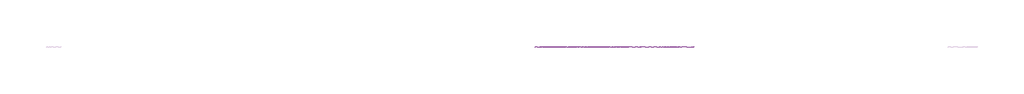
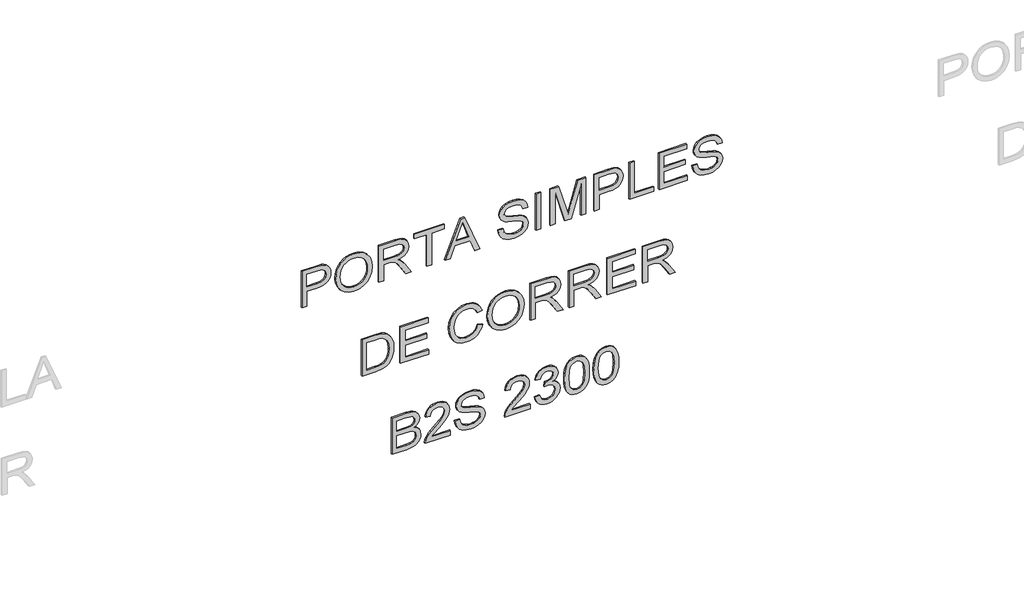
# One storey, part 11 of 13: 1 proxy.
"""IFC4 building model written with IfcOpenShell, lengths in millimetres."""

import ifcopenshell
import ifcopenshell.guid

model = None  # the IFC model being written
_history = None  # IfcOwnerHistory: only IFC2X3 demands one
_inside = {}  # id of a spatial element -> (the spatial element, [elements in it])
_under = {}  # id of a project, library or spatial element -> (it, [spatial elements below it])
_declared = {}  # id of a project -> (the project, [libraries it declares])
_typed = {}  # id of a type object -> (the type object, [elements of that type])
_made_of = {}  # id of a material, layer set ... -> (it, [elements and type objects made of it])


def new_model(schema):
    """Start an empty IFC model of exactly this schema.

    Asked for "IFC4X3", IfcOpenShell would pick the latest addendum, in which some entities
    have other attributes; the version numbers below select the first issue.
    IFC2X3 requires an IfcOwnerHistory on every rooted entity: one is made here for all.
    """
    global model, _history
    if schema == "IFC4X3":
        model = ifcopenshell.file(schema_version=(4, 3, 0, 0))
    else:
        model = ifcopenshell.file(schema=schema)
    _inside.clear()
    _under.clear()
    _declared.clear()
    _typed.clear()
    _made_of.clear()
    _history = None
    if model.schema == "IFC2X3":
        org = make("IfcOrganization", Name="unknown")
        user = make(
            "IfcPersonAndOrganization",
            ThePerson=make("IfcPerson", FamilyName="unknown"),
            TheOrganization=org,
        )
        app = make(
            "IfcApplication",
            ApplicationDeveloper=org,
            Version="unknown",
            ApplicationFullName="unknown",
            ApplicationIdentifier="unknown",
        )
        _history = make(
            "IfcOwnerHistory",
            OwningUser=user,
            OwningApplication=app,
            ChangeAction="ADDED",
            CreationDate=0,
        )
    return model


def make(cls, **values):
    """One entity of the class cls with the attributes given. An attribute that is None is left unset."""
    return model.create_entity(
        cls, **{name: value for name, value in values.items() if value is not None}
    )


def rooted(cls, **values):
    """An entity with a GlobalId (a new one), such as an element, a storey or a relation."""
    return make(cls, GlobalId=ifcopenshell.guid.new(), OwnerHistory=_history, **values)


def si_unit(unit_type, name, prefix=None):
    """IfcSIUnit, for example si_unit("LENGTHUNIT", "METRE", prefix="MILLI")."""
    return make("IfcSIUnit", UnitType=unit_type, Prefix=prefix, Name=name)


def assignment(units):
    """IfcUnitAssignment: the units of a project."""
    return None if units is None else make("IfcUnitAssignment", Units=units)


def point(xyz):
    """IfcCartesianPoint."""
    return None if xyz is None else make("IfcCartesianPoint", Coordinates=xyz)


def direction(xyz):
    """IfcDirection."""
    return None if xyz is None else make("IfcDirection", DirectionRatios=xyz)


def frame(location, z_axis=None, x_axis=None):
    """IfcAxis2Placement3D, a coordinate frame: its origin and axes. An axis left out is left unset."""
    return make(
        "IfcAxis2Placement3D",
        Location=point(location),
        Axis=direction(z_axis),
        RefDirection=direction(x_axis),
    )


def origin():
    """The frame at (0, 0, 0) with its axes left unset."""
    return frame((0.0, 0.0, 0.0))


def place(relative_to, where):
    """IfcLocalPlacement: puts the frame where relative to a parent placement (None: the world)."""
    return make(
        "IfcLocalPlacement", PlacementRelTo=relative_to, RelativePlacement=where
    )


def context(
    kind, dimensions, precision=None, world=None, true_north=None, identifier=None
):
    """IfcGeometricRepresentationContext, for example the 3D "Model" context."""
    return make(
        "IfcGeometricRepresentationContext",
        ContextIdentifier=identifier,
        ContextType=kind,
        CoordinateSpaceDimension=dimensions,
        Precision=precision,
        WorldCoordinateSystem=world,
        TrueNorth=true_north,
    )


def project(units=None, contexts=None):
    """IfcProject with its units and contexts."""
    return rooted(
        "IfcProject",
        Name="project",
        RepresentationContexts=contexts,
        UnitsInContext=assignment(units),
    )


def spatial(cls, under=None, at=None, **own):
    """A site, building, storey or space (cls), placed at a placement, below another one or the project."""
    s = rooted(cls, ObjectPlacement=at, **own)
    if under is not None:
        _under.setdefault(under.id(), (under, []))[1].append(s)
    return s


def polyline(points):
    """IfcPolyline through the points."""
    return make("IfcPolyline", Points=[point(p) for p in points])


def outline(outer, holes=None, kind="AREA"):
    """IfcArbitraryClosedProfileDef: a profile drawn as a closed curve; with holes, ...WithVoids."""
    if holes is None:
        return make("IfcArbitraryClosedProfileDef", ProfileType=kind, OuterCurve=outer)
    return make(
        "IfcArbitraryProfileDefWithVoids",
        ProfileType=kind,
        OuterCurve=outer,
        InnerCurves=holes,
    )


def extrude(swept, where, along, depth):
    """IfcExtrudedAreaSolid: the profile swept, set in the frame where, extruded along a direction by depth."""
    return make(
        "IfcExtrudedAreaSolid",
        SweptArea=swept,
        Position=where,
        ExtrudedDirection=direction(along),
        Depth=depth,
    )


def shape(context_of_items, identifier, shape_type, items):
    """IfcShapeRepresentation: the items that make up one representation, for example the "Body"."""
    return make(
        "IfcShapeRepresentation",
        ContextOfItems=context_of_items,
        RepresentationIdentifier=identifier,
        RepresentationType=shape_type,
        Items=items,
    )


def made_of(thing, what):
    """Note that an element or type object is made of a material, layer set ...; save() writes the relation."""
    if what is not None:
        _made_of.setdefault(what.id(), (what, []))[1].append(thing)
    return thing


def element(
    cls,
    number,
    at=None,
    inside=None,
    cuts=None,
    type_object=None,
    material=None,
    context=None,
    identifier="Body",
    shape_type=None,
    held_by="IfcProductDefinitionShape",
    body=None,
    shapes=None,
    **own,
):
    """One element of the class cls, such as IfcWall. Its Tag is "e" and its number.

    at: its placement. inside: the storey or other place that contains it. cuts: it is an
    opening in that element (IfcRelVoidsElement). A single representation is given by context,
    identifier, shape_type and body (its items); several are given by shapes. held_by: the class
    of the entity that holds the representations. save() writes the other relations.
    """
    e = rooted(cls, Tag="e%d" % number, ObjectPlacement=at, **own)
    if body is not None:
        shapes = [shape(context, identifier, shape_type, body)]
    if shapes is not None:
        e.Representation = make(held_by, Representations=shapes)
    if inside is not None:
        _inside.setdefault(inside.id(), (inside, []))[1].append(e)
    if cuts is not None:
        rooted(
            "IfcRelVoidsElement", RelatingBuildingElement=cuts, RelatedOpeningElement=e
        )
    if type_object is not None:
        _typed.setdefault(type_object.id(), (type_object, []))[1].append(e)
    return made_of(e, material)


def aggregate(whole, parts):
    """IfcRelAggregates: a whole, such as a stair, and the parts it consists of."""
    return rooted("IfcRelAggregates", RelatingObject=whole, RelatedObjects=parts)


def save(model, path):
    """Write the relations noted so far, then the file.

    IfcRelAggregates (storeys below a building ...), IfcRelContainedInSpatialStructure (elements
    in a storey), IfcRelDefinesByType, IfcRelAssociatesMaterial and IfcRelDeclares: one each for
    every whole, place, type object, material and project.
    """
    for whole, parts in _under.values():
        aggregate(whole, parts)
    for where, things in _inside.values():
        rooted(
            "IfcRelContainedInSpatialStructure",
            RelatedElements=things,
            RelatingStructure=where,
        )
    for kind, things in _typed.values():
        rooted("IfcRelDefinesByType", RelatedObjects=things, RelatingType=kind)
    for what, things in _made_of.values():
        rooted("IfcRelAssociatesMaterial", RelatedObjects=things, RelatingMaterial=what)
    for by, libraries in _declared.values():
        rooted("IfcRelDeclares", RelatingContext=by, RelatedDefinitions=libraries)
    model.write(path)


model = new_model("IFC4")

# Units and contexts
model_context = context("Model", 3, world=origin())
ifc_project = project(units=[si_unit("LENGTHUNIT", "METRE", prefix="MILLI")], contexts=[model_context])

# Site, building, storey
site = spatial("IfcSite", under=ifc_project)
building = spatial("IfcBuilding", under=site)
storey = spatial("IfcBuildingStorey", under=building, Name="02 - Marelli - Planta Baixa - Portas", Elevation=-12000.0)

# Proxy
placement = place(None, origin())
element("IfcBuildingElementProxy", 1, Name="300mm Arial", ObjectType="300mm Arial", at=placement, inside=storey, context=model_context, shape_type="SweptSolid", body=[
    extrude(outline(polyline([(-5683.1381416, 57229.2612813), (-5683.1381416, 57266.9323976), (-5560.7070137, 57266.9323976), (-5560.7070137, 57343.525429), (-5559.0423476, 57372.7237631), (-5554.0483495, 57397.0430622), (-5545.7250194, 57416.4833264), (-5534.0723572, 57431.0445557), (-5520.0146665, 57441.6510534), (-5504.4762507, 57449.2271233), (-5487.4571099, 57453.7727652), (-5468.9572441, 57455.2879791), (-5447.5005267, 57453.043899), (-5427.8648252, 57446.3116585), (-5411.2181649, 57435.8914009), (-5398.7285712, 57422.5832698), (-5390.0005708, 57406.0561711), (-5384.6386908, 57385.9790112), (-5381.7692112, 57340.950255), (-5381.7692112, 57229.2612813), (-5683.1381416, 57229.2612813)]), holes=[polyline([(-5523.0358973, 57266.9323976), (-5419.4403275, 57266.9323976), (-5419.4403275, 57344.8498042), (-5422.0155015, 57382.5209205), (-5428.3430718, 57396.7487567), (-5439.085226, 57407.9415664), (-5453.3590475, 57415.1980387), (-5470.2816192, 57417.6168628), (-5492.556874, 57413.5149786), (-5509.2035343, 57401.2093258), (-5519.5778066, 57379.1364061), (-5523.0358973, 57345.732721), (-5523.0358973, 57266.9323976)])]), frame((0.0, 8778.3159498, 0.0), z_axis=(0.0, 1.0, 0.0), x_axis=(0.0, 0.0, 1.0)), (0.0, 0.0, 1.0), 10.0),
    extrude(outline(polyline([(-5536.426802, 57492.9590954), (-5574.971638, 57497.2633148), (-5611.4379408, 57510.1759728), (-5643.1309747, 57531.4395521), (-5667.3560041, 57560.7965354), (-5682.7242744, 57596.4443007), (-5687.8470312, 57636.5802264), (-5683.211718, 57674.3892984), (-5669.3057786, 57709.531226), (-5646.3867303, 57739.4952145), (-5614.7120905, 57761.7704693), (-5576.2500279, 57775.5936353), (-5532.9687112, 57780.2013573), (-5490.2576116, 57775.8235615), (-5452.3289779, 57762.6901743), (-5420.7095204, 57741.2058658), (-5396.9259494, 57711.7753062), (-5382.0267286, 57676.3298759), (-5377.0603217, 57636.8009556), (-5379.7044735, 57606.5104718), (-5387.636929, 57579.1354528), (-5400.8576882, 57554.6758987), (-5419.3667511, 57533.1318093), (-5442.5479153, 57515.556247), (-5469.7849785, 57503.0022739), (-5501.0779408, 57495.4698901), (-5536.426802, 57492.9590954)]), holes=[polyline([(-5536.794684, 57530.6302117), (-5506.2581791, 57532.5937819), (-5480.4259653, 57538.4844923), (-5459.2980424, 57548.3023431), (-5442.8744106, 57562.0473341), (-5430.5618601, 57578.5146519), (-5421.7671811, 57596.499483), (-5416.4903738, 57616.0018273), (-5414.731438, 57637.0216848), (-5418.3826668, 57666.1855299), (-5429.3363532, 57692.3143486), (-5446.9303096, 57713.9734011), (-5470.5023484, 57729.7279475), (-5499.3259028, 57739.3296676), (-5532.6744056, 57742.530241), (-5559.212493, 57740.6609406), (-5582.5408101, 57735.0530394), (-5602.6593567, 57725.7065375), (-5619.5681329, 57712.6214348), (-5632.9590375, 57696.6392613), (-5642.5239694, 57678.6015473), (-5648.2629285, 57658.5082925), (-5650.1759149, 57636.3594972), (-5648.2813226, 57614.5831823), (-5642.5975458, 57594.7244524), (-5633.1245844, 57576.7833073), (-5619.8624385, 57560.7597472), (-5603.3031502, 57547.5780754), (-5583.9387616, 57538.1625956), (-5561.7692729, 57532.5133077), (-5536.794684, 57530.6302117)])]), frame((0.0, 8778.3159498, 0.0), z_axis=(0.0, 1.0, 0.0), x_axis=(0.0, 0.0, 1.0)), (0.0, 0.0, 1.0), 10.0),
    extrude(outline(polyline([(-5683.1381416, 57831.9991422), (-5683.1381416, 57869.6702585), (-5551.2892346, 57869.6702585), (-5551.2892346, 57915.1404731), (-5552.6136098, 57936.9926636), (-5559.7873087, 57954.9085168), (-5579.3218426, 57974.8109327), (-5620.6717789, 58003.1378464), (-5683.1381416, 58042.354067), (-5683.1381416, 58086.1320245), (-5601.4683387, 58035.8793439), (-5562.6935764, 58005.3451383), (-5546.580345, 57983.9344062), (-5536.5923489, 58021.0445025), (-5528.5771199, 58035.4263892), (-5518.547737, 58047.0261684), (-5493.9364315, 58062.3392564), (-5464.2483545, 58067.4436191), (-5440.3820101, 58064.3626074), (-5418.6677753, 58055.1195723), (-5401.1565923, 58040.7169922), (-5389.8994033, 58022.1573455), (-5383.8017592, 57996.7642908), (-5381.7692112, 57961.8614865), (-5381.7692112, 57831.9991422), (-5683.1381416, 57831.9991422)]), holes=[polyline([(-5513.6181183, 57869.6702585), (-5419.4403275, 57869.6702585), (-5419.4403275, 57963.4801673), (-5422.6960832, 57993.2878059), (-5432.4633501, 58013.8432124), (-5447.2706004, 58025.7901802), (-5465.6463061, 58029.7725028), (-5478.9544373, 58027.6847725), (-5491.2141048, 58021.4215815), (-5501.3492537, 58011.1392797), (-5508.2838293, 57996.994217), (-5512.284546, 57978.2046441), (-5513.6181183, 57953.9888118), (-5513.6181183, 57869.6702585)])]), frame((0.0, 8778.3159498, 0.0), z_axis=(0.0, 1.0, 0.0), x_axis=(0.0, 0.0, 1.0)), (0.0, 0.0, 1.0), 10.0),
    extrude(outline(polyline([(-5683.1381416, 58208.7103053), (-5683.1381416, 58246.3814216), (-5419.4403275, 58246.3814216), (-5419.4403275, 58345.2681019), (-5381.7692112, 58345.2681019), (-5381.7692112, 58109.823625), (-5419.4403275, 58109.823625), (-5419.4403275, 58208.7103053), (-5683.1381416, 58208.7103053)])), frame((0.0, 8778.3159498, 0.0), z_axis=(0.0, 1.0, 0.0), x_axis=(0.0, 0.0, 1.0)), (0.0, 0.0, 1.0), 10.0),
    extrude(outline(polyline([(-5683.1381416, 58352.5521654), (-5683.1381416, 58392.3569973), (-5588.9603509, 58426.790752), (-5588.9603509, 58550.9141372), (-5683.1381416, 58585.4214683), (-5683.1381416, 58625.2263002), (-5381.7692112, 58504.9288878), (-5381.7692112, 58472.8495778), (-5683.1381416, 58352.5521654)]), holes=[polyline([(-5551.2892346, 58440.623115), (-5470.7230776, 58470.127251), (-5419.4403275, 58488.8892328), (-5477.1978007, 58510.0056593), (-5551.2892346, 58537.1553506), (-5551.2892346, 58440.623115)])]), frame((0.0, 8778.3159498, 0.0), z_axis=(0.0, 1.0, 0.0), x_axis=(0.0, 0.0, 1.0)), (0.0, 0.0, 1.0), 10.0),
    extrude(outline(polyline([(-5579.5425718, 58769.0681603), (-5609.9664128, 58773.5379266), (-5637.0793159, 58785.3285445), (-5659.3361766, 58803.6950531), (-5675.1918906, 58827.8924913), (-5684.683246, 58858.2703471), (-5687.8470312, 58895.1781083), (-5684.9131723, 58925.2432643), (-5676.1115955, 58952.1630293), (-5662.0217151, 58974.5486487), (-5643.2229452, 58991.011368), (-5621.3799517, 59001.1373199), (-5598.1574008, 59004.5126372), (-5575.4406876, 59001.5787783), (-5555.5566657, 58992.7772016), (-5538.6892762, 58977.7952073), (-5525.0224601, 58956.3200959), (-5516.2116863, 58931.1937556), (-5506.1133256, 58889.6598783), (-5495.4815359, 58849.4135881), (-5485.0704754, 58828.1500087), (-5473.4270103, 58819.155294), (-5458.9508538, 58816.1570557), (-5441.9730997, 58820.3876986), (-5427.6808842, 58833.0796275), (-5417.9687995, 58855.0237885), (-5414.731438, 58887.011128), (-5418.0055877, 58918.2627035), (-5427.828037, 58940.7954757), (-5444.051633, 58955.2164499), (-5466.5292229, 58962.1326314), (-5466.5292229, 58999.8037477), (-5441.5684295, 58995.5547106), (-5419.3667511, 58984.8677387), (-5401.0646218, 58967.9819551), (-5387.8024759, 58945.1364832), (-5379.7458602, 58917.3246044), (-5377.0603217, 58885.5396), (-5379.6262986, 58856.2010109), (-5387.3242293, 58829.6951131), (-5399.97937, 58807.6129964), (-5417.4169765, 58791.5457502), (-5437.9907771, 58781.7508921), (-5460.0544998, 58778.4859394), (-5479.7913688, 58781.1254927), (-5497.5048869, 58789.0441526), (-5512.8639602, 58802.3338897), (-5525.5374949, 58821.0866744), (-5534.596589, 58844.1252844), (-5544.1155357, 58880.1317347), (-5558.4997217, 58934.9829401), (-5566.308017, 58951.0593833), (-5575.6062345, 58960.587527), (-5586.5047386, 58965.2780224), (-5599.1138939, 58966.8415209), (-5612.0541431, 58964.7537906), (-5624.387387, 58958.4905996), (-5635.1295413, 58947.9599775), (-5643.2965216, 58933.0699538), (-5648.4560666, 58914.6942481), (-5650.1759149, 58893.7065803), (-5647.9042436, 58869.867827), (-5641.0892296, 58848.5306713), (-5630.5861986, 58831.0746706), (-5617.2504763, 58818.8793825), (-5600.4474662, 58811.0618901), (-5579.5425718, 58806.7392766), (-5579.5425718, 58769.0681603)])), frame((0.0, 8778.3159498, 0.0), z_axis=(0.0, 1.0, 0.0), x_axis=(0.0, 0.0, 1.0)), (0.0, 0.0, 1.0), 10.0),
    extrude(outline(polyline([(59103.3993175, 8778.3159498), (59065.7282012, 8778.3159498), (59065.7282012, 8788.3159498), (59103.3993175, 8788.3159498), (59103.3993175, 8778.3159498)])), frame((0.0, 0.0, -5683.1381416), z_axis=(0.0, 0.0, 1.0), x_axis=(1.0, 0.0, 0.0)), (0.0, 0.0, 1.0), 301.3689304),
    extrude(outline(polyline([(-5683.1381416, 59178.7415501), (-5683.1381416, 59216.4126664), (-5419.4403275, 59216.4126664), (-5683.1381416, 59292.1227811), (-5683.1381416, 59343.184802), (-5419.4403275, 59418.8949166), (-5683.1381416, 59418.8949166), (-5683.1381416, 59456.5660329), (-5381.7692112, 59456.5660329), (-5381.7692112, 59391.7452253), (-5590.5054553, 59331.1182725), (-5638.5508438, 59317.6537915), (-5594.1842752, 59305.2193801), (-5381.7692112, 59243.5623577), (-5381.7692112, 59178.7415501), (-5683.1381416, 59178.7415501)])), frame((0.0, 8778.3159498, 0.0), z_axis=(0.0, 1.0, 0.0), x_axis=(0.0, 0.0, 1.0)), (0.0, 0.0, 1.0), 10.0),
    extrude(outline(polyline([(-5683.1381416, 59522.4904864), (-5683.1381416, 59560.1616027), (-5560.7070137, 59560.1616027), (-5560.7070137, 59636.7546341), (-5559.0423476, 59665.9529682), (-5554.0483495, 59690.2722674), (-5545.7250194, 59709.7125316), (-5534.0723572, 59724.2737608), (-5520.0146665, 59734.8802586), (-5504.4762507, 59742.4563284), (-5487.4571099, 59747.0019703), (-5468.9572441, 59748.5171843), (-5447.5005267, 59746.2731041), (-5427.8648252, 59739.5408636), (-5411.2181649, 59729.1206061), (-5398.7285712, 59715.8124749), (-5390.0005708, 59699.2853763), (-5384.6386908, 59679.2082164), (-5381.7692112, 59634.1794602), (-5381.7692112, 59522.4904864), (-5683.1381416, 59522.4904864)]), holes=[polyline([(-5523.0358973, 59560.1616027), (-5419.4403275, 59560.1616027), (-5419.4403275, 59638.0790093), (-5422.0155015, 59675.7501256), (-5428.3430718, 59689.9779618), (-5439.085226, 59701.1707715), (-5453.3590475, 59708.4272438), (-5470.2816192, 59710.846068), (-5492.556874, 59706.7441837), (-5509.2035343, 59694.438531), (-5519.5778066, 59672.3656113), (-5523.0358973, 59638.9619261), (-5523.0358973, 59560.1616027)])]), frame((0.0, 8778.3159498, 0.0), z_axis=(0.0, 1.0, 0.0), x_axis=(0.0, 0.0, 1.0)), (0.0, 0.0, 1.0), 10.0),
    extrude(outline(polyline([(-5683.1381416, 59800.3149692), (-5683.1381416, 59988.6705507), (-5645.4670253, 59988.6705507), (-5645.4670253, 59837.9860855), (-5381.7692112, 59837.9860855), (-5381.7692112, 59800.3149692), (-5683.1381416, 59800.3149692)])), frame((0.0, 8778.3159498, 0.0), z_axis=(0.0, 1.0, 0.0), x_axis=(0.0, 0.0, 1.0)), (0.0, 0.0, 1.0), 10.0),
    extrude(outline(polyline([(-5683.1381416, 60031.0505566), (-5683.1381416, 60252.3683649), (-5645.4670253, 60252.3683649), (-5645.4670253, 60068.7216729), (-5546.580345, 60068.7216729), (-5546.580345, 60238.2416962), (-5508.9092287, 60238.2416962), (-5508.9092287, 60068.7216729), (-5419.4403275, 60068.7216729), (-5419.4403275, 60247.6594753), (-5381.7692112, 60247.6594753), (-5381.7692112, 60031.0505566), (-5683.1381416, 60031.0505566)])), frame((0.0, 8778.3159498, 0.0), z_axis=(0.0, 1.0, 0.0), x_axis=(0.0, 0.0, 1.0)), (0.0, 0.0, 1.0), 10.0),
    extrude(outline(polyline([(-5579.5425718, 60294.7483707), (-5609.9664128, 60299.2181369), (-5637.0793159, 60311.0087549), (-5659.3361766, 60329.3752635), (-5675.1918906, 60353.5727017), (-5684.683246, 60383.9505575), (-5687.8470312, 60420.8583187), (-5684.9131723, 60450.9234747), (-5676.1115955, 60477.8432397), (-5662.0217151, 60500.2288591), (-5643.2229452, 60516.6915784), (-5621.3799517, 60526.8175303), (-5598.1574008, 60530.1928476), (-5575.4406876, 60527.2589887), (-5555.5566657, 60518.457412), (-5538.6892762, 60503.4754177), (-5525.0224601, 60482.0003063), (-5516.2116863, 60456.873966), (-5506.1133256, 60415.3400887), (-5495.4815359, 60375.0937985), (-5485.0704754, 60353.8302191), (-5473.4270103, 60344.8355044), (-5458.9508538, 60341.8372661), (-5441.9730997, 60346.067909), (-5427.6808842, 60358.7598379), (-5417.9687995, 60380.7039989), (-5414.731438, 60412.6913384), (-5418.0055877, 60443.9429139), (-5427.828037, 60466.4756861), (-5444.051633, 60480.8966603), (-5466.5292229, 60487.8128418), (-5466.5292229, 60525.4839581), (-5441.5684295, 60521.234921), (-5419.3667511, 60510.5479491), (-5401.0646218, 60493.6621655), (-5387.8024759, 60470.8166936), (-5379.7458602, 60443.0048148), (-5377.0603217, 60411.2198104), (-5379.6262986, 60381.8812213), (-5387.3242293, 60355.3753235), (-5399.97937, 60333.2932068), (-5417.4169765, 60317.2259606), (-5437.9907771, 60307.4311025), (-5460.0544998, 60304.1661498), (-5479.7913688, 60306.8057031), (-5497.5048869, 60314.724363), (-5512.8639602, 60328.0141001), (-5525.5374949, 60346.7668848), (-5534.596589, 60369.8054948), (-5544.1155357, 60405.8119451), (-5558.4997217, 60460.6631505), (-5566.308017, 60476.7395937), (-5575.6062345, 60486.2677374), (-5586.5047386, 60490.9582328), (-5599.1138939, 60492.5217313), (-5612.0541431, 60490.434001), (-5624.387387, 60484.17081), (-5635.1295413, 60473.6401879), (-5643.2965216, 60458.7501642), (-5648.4560666, 60440.3744585), (-5650.1759149, 60419.3867907), (-5647.9042436, 60395.5480374), (-5641.0892296, 60374.2108817), (-5630.5861986, 60356.754881), (-5617.2504763, 60344.5595929), (-5600.4474662, 60336.7421005), (-5579.5425718, 60332.419487), (-5579.5425718, 60294.7483707)])), frame((0.0, 8778.3159498, 0.0), z_axis=(0.0, 1.0, 0.0), x_axis=(0.0, 0.0, 1.0)), (0.0, 0.0, 1.0), 10.0),
    extrude(outline(polyline([(-6414.9870487, 57700.1502351), (-6414.9870487, 57809.1168821), (-6409.8367008, 57857.5669409), (-6403.4815393, 57877.1106719), (-6394.7167508, 57893.5825882), (-6382.8985417, 57907.929986), (-6367.3831185, 57921.1001614), (-6347.729023, 57932.5412915), (-6323.4947965, 57941.7015532), (-6295.0299271, 57947.7164238), (-6262.6839027, 57949.7213807), (-6224.6081162, 57946.7599306), (-6191.0204901, 57937.8755804), (-6162.4728472, 57923.0315419), (-6139.5170107, 57902.1910269), (-6126.3284412, 57881.9207289), (-6117.9591258, 57857.8980347), (-6113.6181183, 57804.113687), (-6113.6181183, 57700.1502351), (-6414.9870487, 57700.1502351)]), holes=[polyline([(-6377.3159324, 57737.8213514), (-6151.2892346, 57737.8213514), (-6151.2892346, 57803.4514994), (-6152.7975508, 57835.1997156), (-6157.3224993, 57856.8679651), (-6169.9040635, 57878.1591355), (-6190.7261845, 57895.9738212), (-6221.0396609, 57908.0311536), (-6262.0952915, 57912.0502643), (-6293.0801526, 57909.9993222), (-6319.0802126, 57903.8464959), (-6340.187442, 57894.0148495), (-6356.4938115, 57880.9274476), (-6365.3045853, 57868.7505535), (-6371.8712789, 57852.9684159), (-6375.954769, 57832.0543245), (-6377.3159324, 57804.481569), (-6377.3159324, 57737.8213514)])]), frame((0.0, 8778.3159498, 0.0), z_axis=(0.0, 1.0, 0.0), x_axis=(0.0, 0.0, 1.0)), (0.0, 0.0, 1.0), 10.0),
    extrude(outline(polyline([(-6414.9870487, 58001.5191656), (-6414.9870487, 58222.8369739), (-6377.3159324, 58222.8369739), (-6377.3159324, 58039.1902819), (-6278.4292521, 58039.1902819), (-6278.4292521, 58208.7103053), (-6240.7581358, 58208.7103053), (-6240.7581358, 58039.1902819), (-6151.2892346, 58039.1902819), (-6151.2892346, 58218.1280843), (-6113.6181183, 58218.1280843), (-6113.6181183, 58001.5191656), (-6414.9870487, 58001.5191656)])), frame((0.0, 8778.3159498, 0.0), z_axis=(0.0, 1.0, 0.0), x_axis=(0.0, 0.0, 1.0)), (0.0, 0.0, 1.0), 10.0),
    extrude(outline(polyline([(-6307.8598117, 58608.965916), (-6340.1230627, 58596.7798249), (-6363.3364166, 58576.9969706), (-6377.3527206, 58550.7945755), (-6382.024822, 58519.349862), (-6378.5943223, 58492.3749147), (-6368.3028235, 58467.3681361), (-6351.0767491, 58446.5092269), (-6326.8425227, 58431.9778881), (-6296.7497755, 58423.4522229), (-6261.9481387, 58420.6103345), (-6233.5292546, 58423.0107645), (-6205.9564991, 58430.2120546), (-6181.5659228, 58443.3362447), (-6162.6935764, 58463.5053751), (-6150.6086529, 58490.0848493), (-6146.580345, 58522.4400707), (-6150.2131797, 58550.509467), (-6161.1116838, 58573.3549389), (-6179.9564391, 58591.1972156), (-6207.428027, 58604.2570265), (-6198.4517064, 58641.9281428), (-6160.6334373, 58625.2906795), (-6145.3111522, 58613.4885653), (-6132.3801, 58599.3641959), (-6122.1115938, 58583.1842859), (-6114.7769466, 58565.2155497), (-6108.9092287, 58523.9115987), (-6113.4433743, 58486.0565414), (-6127.0458111, 58451.5124221), (-6149.3854453, 58422.3853651), (-6180.131183, 58400.7814949), (-6218.0782108, 58387.3997874), (-6262.0217151, 58382.9392182), (-6303.6843511, 58386.8847526), (-6342.5878721, 58398.7213558), (-6375.6788575, 58418.1087369), (-6399.9038869, 58444.7066052), (-6414.7479254, 58479.4070744), (-6419.6959383, 58523.1022583), (-6418.0611626, 58545.5246659), (-6413.1568358, 58566.1444518), (-6404.9829577, 58584.9616158), (-6393.5395284, 58601.9761581), (-6378.9828977, 58616.8523863), (-6361.4694155, 58629.254608), (-6340.9990817, 58639.1828234), (-6317.5718964, 58646.6370323), (-6307.8598117, 58608.965916)])), frame((0.0, 8778.3159498, 0.0), z_axis=(0.0, 1.0, 0.0), x_axis=(0.0, 0.0, 1.0)), (0.0, 0.0, 1.0), 10.0),
    extrude(outline(polyline([(-6268.275709, 58684.3081486), (-6306.8205451, 58688.612368), (-6343.2868479, 58701.525026), (-6374.9798817, 58722.7886053), (-6399.2049111, 58752.1455885), (-6414.5731815, 58787.7933539), (-6419.6959383, 58827.9292795), (-6415.0606251, 58865.7383516), (-6401.1546857, 58900.8802792), (-6378.2356374, 58930.8442677), (-6346.5609976, 58953.1195225), (-6308.098935, 58966.9426885), (-6264.8176183, 58971.5504105), (-6222.1065186, 58967.1726147), (-6184.1778849, 58954.0392275), (-6152.5584275, 58932.554919), (-6128.7748565, 58903.1243594), (-6113.8756357, 58867.6789291), (-6108.9092287, 58828.1500087), (-6111.5533806, 58797.859525), (-6119.4858361, 58770.484506), (-6132.7065953, 58746.0249518), (-6151.2156582, 58724.4808625), (-6174.3968224, 58706.9053002), (-6201.6338856, 58694.3513271), (-6232.9268478, 58686.8189432), (-6268.275709, 58684.3081486)]), holes=[polyline([(-6268.643591, 58721.9792649), (-6238.1070862, 58723.9428351), (-6212.2748723, 58729.8335455), (-6191.1469495, 58739.6513963), (-6174.7233177, 58753.3963873), (-6162.4107671, 58769.8637051), (-6153.6160882, 58787.8485362), (-6148.3392808, 58807.3508804), (-6146.580345, 58828.3707379), (-6150.2315738, 58857.5345831), (-6161.1852602, 58883.6634018), (-6178.7792167, 58905.3224543), (-6202.3512555, 58921.0770007), (-6231.1748098, 58930.6787208), (-6264.5233127, 58933.8792942), (-6291.0614001, 58932.0099938), (-6314.3897171, 58926.4020926), (-6334.5082637, 58917.0555907), (-6351.41704, 58903.9704879), (-6364.8079446, 58887.9883145), (-6374.3728765, 58869.9506004), (-6380.1118356, 58849.8573457), (-6382.024822, 58827.7085503), (-6380.1302297, 58805.9322355), (-6374.4464529, 58786.0735055), (-6364.9734915, 58768.1323605), (-6351.7113455, 58752.1088003), (-6335.1520572, 58738.9271286), (-6315.7876687, 58729.5116488), (-6293.61818, 58723.8623609), (-6268.643591, 58721.9792649)])]), frame((0.0, 8778.3159498, 0.0), z_axis=(0.0, 1.0, 0.0), x_axis=(0.0, 0.0, 1.0)), (0.0, 0.0, 1.0), 10.0),
    extrude(outline(polyline([(-6414.9870487, 59023.3481954), (-6414.9870487, 59061.0193117), (-6283.1381416, 59061.0193117), (-6283.1381416, 59106.4895263), (-6284.4625168, 59128.3417168), (-6291.6362157, 59146.25757), (-6311.1707497, 59166.1599859), (-6352.5206859, 59194.4868995), (-6414.9870487, 59233.7031202), (-6414.9870487, 59277.4810776), (-6333.3172458, 59227.2283971), (-6294.5424835, 59196.6941915), (-6278.4292521, 59175.2834594), (-6268.4412559, 59212.3935556), (-6260.426027, 59226.7754424), (-6250.3966441, 59238.3752216), (-6225.7853386, 59253.6883096), (-6196.0972616, 59258.7926723), (-6172.2309172, 59255.7116606), (-6150.5166824, 59246.4686255), (-6133.0054994, 59232.0660453), (-6121.7483104, 59213.5063987), (-6115.6506663, 59188.113344), (-6113.6181183, 59153.2105397), (-6113.6181183, 59023.3481954), (-6414.9870487, 59023.3481954)]), holes=[polyline([(-6245.4670253, 59061.0193117), (-6151.2892346, 59061.0193117), (-6151.2892346, 59154.8292205), (-6154.5449902, 59184.6368591), (-6164.3122572, 59205.1922656), (-6179.1195075, 59217.1392334), (-6197.4952132, 59221.121556), (-6210.8033443, 59219.0338257), (-6223.0630118, 59212.7706347), (-6233.1981608, 59202.4883329), (-6240.1327364, 59188.3432702), (-6244.1334531, 59169.5536973), (-6245.4670253, 59145.337865), (-6245.4670253, 59061.0193117)])]), frame((0.0, 8778.3159498, 0.0), z_axis=(0.0, 1.0, 0.0), x_axis=(0.0, 0.0, 1.0)), (0.0, 0.0, 1.0), 10.0),
    extrude(outline(polyline([(-6414.9870487, 59324.7171258), (-6414.9870487, 59362.3882421), (-6283.1381416, 59362.3882421), (-6283.1381416, 59407.8584567), (-6284.4625168, 59429.7106472), (-6291.6362157, 59447.6265004), (-6311.1707497, 59467.5289164), (-6352.5206859, 59495.85583), (-6414.9870487, 59535.0720507), (-6414.9870487, 59578.8500081), (-6333.3172458, 59528.5973276), (-6294.5424835, 59498.063122), (-6278.4292521, 59476.6523898), (-6268.4412559, 59513.7624861), (-6260.426027, 59528.1443728), (-6250.3966441, 59539.744152), (-6225.7853386, 59555.0572401), (-6196.0972616, 59560.1616027), (-6172.2309172, 59557.080591), (-6150.5166824, 59547.8375559), (-6133.0054994, 59533.4349758), (-6121.7483104, 59514.8753291), (-6115.6506663, 59489.4822744), (-6113.6181183, 59454.5794701), (-6113.6181183, 59324.7171258), (-6414.9870487, 59324.7171258)]), holes=[polyline([(-6245.4670253, 59362.3882421), (-6151.2892346, 59362.3882421), (-6151.2892346, 59456.1981509), (-6154.5449902, 59486.0057896), (-6164.3122572, 59506.561196), (-6179.1195075, 59518.5081638), (-6197.4952132, 59522.4904864), (-6210.8033443, 59520.4027561), (-6223.0630118, 59514.1395651), (-6233.1981608, 59503.8572634), (-6240.1327364, 59489.7122007), (-6244.1334531, 59470.9226278), (-6245.4670253, 59446.7067954), (-6245.4670253, 59362.3882421)])]), frame((0.0, 8778.3159498, 0.0), z_axis=(0.0, 1.0, 0.0), x_axis=(0.0, 0.0, 1.0)), (0.0, 0.0, 1.0), 10.0),
    extrude(outline(polyline([(-6414.9870487, 59626.0860563), (-6414.9870487, 59847.4038646), (-6377.3159324, 59847.4038646), (-6377.3159324, 59663.7571726), (-6278.4292521, 59663.7571726), (-6278.4292521, 59833.277196), (-6240.7581358, 59833.277196), (-6240.7581358, 59663.7571726), (-6151.2892346, 59663.7571726), (-6151.2892346, 59842.694975), (-6113.6181183, 59842.694975), (-6113.6181183, 59626.0860563), (-6414.9870487, 59626.0860563)])), frame((0.0, 8778.3159498, 0.0), z_axis=(0.0, 1.0, 0.0), x_axis=(0.0, 0.0, 1.0)), (0.0, 0.0, 1.0), 10.0),
    extrude(outline(polyline([(-6414.9870487, 59903.910539), (-6414.9870487, 59941.5816553), (-6283.1381416, 59941.5816553), (-6283.1381416, 59987.0518699), (-6284.4625168, 60008.9040605), (-6291.6362157, 60026.8199136), (-6311.1707497, 60046.7223296), (-6352.5206859, 60075.0492432), (-6414.9870487, 60114.2654639), (-6414.9870487, 60158.0434213), (-6333.3172458, 60107.7907408), (-6294.5424835, 60077.2565352), (-6278.4292521, 60055.845803), (-6268.4412559, 60092.9558993), (-6260.426027, 60107.3377861), (-6250.3966441, 60118.9375652), (-6225.7853386, 60134.2506533), (-6196.0972616, 60139.3550159), (-6172.2309172, 60136.2740042), (-6150.5166824, 60127.0309691), (-6133.0054994, 60112.628389), (-6121.7483104, 60094.0687423), (-6115.6506663, 60068.6756876), (-6113.6181183, 60033.7728833), (-6113.6181183, 59903.910539), (-6414.9870487, 59903.910539)]), holes=[polyline([(-6245.4670253, 59941.5816553), (-6151.2892346, 59941.5816553), (-6151.2892346, 60035.3915641), (-6154.5449902, 60065.1992028), (-6164.3122572, 60085.7546092), (-6179.1195075, 60097.701577), (-6197.4952132, 60101.6838996), (-6210.8033443, 60099.5961693), (-6223.0630118, 60093.3329783), (-6233.1981608, 60083.0506766), (-6240.1327364, 60068.9056139), (-6244.1334531, 60050.116041), (-6245.4670253, 60025.9002086), (-6245.4670253, 59941.5816553)])]), frame((0.0, 8778.3159498, 0.0), z_axis=(0.0, 1.0, 0.0), x_axis=(0.0, 0.0, 1.0)), (0.0, 0.0, 1.0), 10.0),
    extrude(outline(polyline([(-7146.8359558, 57935.594712), (-7146.8359558, 58049.7117069), (-7141.6488197, 58098.0146129), (-7135.2292788, 58116.0500277), (-7126.3449287, 58130.7928987), (-7114.0760641, 58142.831837), (-7097.5029802, 58152.7554538), (-7078.0144315, 58159.4049209), (-7056.9991726, 58161.6214099), (-7031.7808618, 58158.3748513), (-7010.1310064, 58148.6351754), (-6993.1716464, 58132.8622349), (-6982.024822, 58111.5158821), (-6970.2801893, 58129.38575), (-6955.3533773, 58142.0868759), (-6938.2928498, 58149.6744421), (-6920.1470704, 58152.2036308), (-6900.4285954, 58149.1961955), (-6881.5930373, 58140.1738896), (-6865.5809734, 58125.8448858), (-6854.3329814, 58106.9173572), (-6847.6835144, 58082.2232783), (-6845.4670253, 58050.5946237), (-6845.4670253, 57935.594712), (-7146.8359558, 57935.594712)]), holes=[polyline([(-6967.8981533, 57973.2658283), (-6883.1381416, 57973.2658283), (-6883.1381416, 58036.8358371), (-6887.074479, 58085.2491077), (-6892.6754824, 58097.7387014), (-6901.6058178, 58106.9541454), (-6913.0469479, 58112.6379222), (-6926.1803351, 58114.5325145), (-6939.7091955, 58112.4999665), (-6950.7180642, 58106.4023224), (-6959.0781825, 58096.2947646), (-6964.6607918, 58082.2324753), (-6967.8981533, 58042.0597614), (-6967.8981533, 57973.2658283)]), polyline([(-7109.1648395, 57973.2658283), (-7005.5692696, 57973.2658283), (-7005.5692696, 58046.8422274), (-7006.8292655, 58073.6700219), (-7010.609253, 58093.3792998), (-7017.4978433, 58107.2944362), (-7028.0836477, 58116.7398065), (-7041.6217052, 58122.1476718), (-7057.3670546, 58123.9502936), (-7070.9235061, 58122.4143862), (-7082.7509122, 58117.8066642), (-7099.489543, 58102.1348913), (-7107.6933115, 58078.480079), (-7109.1648395, 58050.5210473), (-7109.1648395, 57973.2658283)])]), frame((0.0, 8778.3159498, 0.0), z_axis=(0.0, 1.0, 0.0), x_axis=(0.0, 0.0, 1.0)), (0.0, 0.0, 1.0), 10.0),
    extrude(outline(polyline([(-7109.1648395, 58392.3569973), (-7109.1648395, 58244.3948588), (-7089.9981875, 58261.391007), (-7053.761811, 58304.727506), (-7024.7451186, 58337.4230183), (-7002.1479671, 58358.6957947), (-6983.2204384, 58372.0407141), (-6965.2126148, 58380.9526554), (-6947.5082938, 58385.9742446), (-6929.491273, 58387.6481077), (-6912.338775, 58386.0961055), (-6896.6394109, 58381.440099), (-6882.3931806, 58373.6800882), (-6869.6000842, 58362.816073), (-6859.041871, 58349.2895119), (-6851.5002901, 58333.5418633), (-6846.9753415, 58315.5731271), (-6845.4670253, 58295.3833033), (-6850.8932848, 58257.5006549), (-6857.6761091, 58241.7668018), (-6867.1720631, 58228.1712628), (-6879.2523881, 58216.9715553), (-6893.7883254, 58208.4251967), (-6930.227037, 58199.2925262), (-6934.9359266, 58236.9636425), (-6913.2860712, 58241.0379356), (-6896.8969283, 58252.8193565), (-6886.5778383, 58271.0755005), (-6883.1381416, 58294.5739629), (-6886.6606118, 58316.9503853), (-6897.2280221, 58334.6363122), (-6912.9089921, 58346.1418216), (-6931.7721414, 58349.9769914), (-6952.8149915, 58345.9118954), (-6974.4464529, 58333.7166072), (-7001.0995034, 58309.3260309), (-7037.2071212, 58268.6750705), (-7060.2641253, 58241.1758913), (-7080.8747141, 58221.5125987), (-7100.5655978, 58207.919359), (-7120.8634869, 58198.6303386), (-7146.8359558, 58194.5836366), (-7146.8359558, 58392.3569973), (-7109.1648395, 58392.3569973)])), frame((0.0, 8778.3159498, 0.0), z_axis=(0.0, 1.0, 0.0), x_axis=(0.0, 0.0, 1.0)), (0.0, 0.0, 1.0), 10.0),
    extrude(outline(polyline([(-7043.2403859, 58430.0281136), (-7073.6642269, 58434.4978798), (-7100.77713, 58446.2884977), (-7123.0339907, 58464.6550064), (-7138.8897047, 58488.8524446), (-7148.3810602, 58519.2303003), (-7151.5448453, 58556.1380615), (-7148.6109864, 58586.2032176), (-7139.8094097, 58613.1229826), (-7125.7195293, 58635.508602), (-7106.9207593, 58651.9713212), (-7085.0777658, 58662.0972732), (-7061.8552149, 58665.4725905), (-7039.1385017, 58662.5387316), (-7019.2544799, 58653.7371548), (-7002.3870904, 58638.7551606), (-6988.7202743, 58617.2800491), (-6979.9095005, 58592.1537088), (-6969.8111397, 58550.6198316), (-6959.1793501, 58510.3735413), (-6948.7682896, 58489.109962), (-6937.1248244, 58480.1152472), (-6922.6486679, 58477.1170089), (-6905.6709139, 58481.3476519), (-6891.3786983, 58494.0395807), (-6881.6666137, 58515.9837417), (-6878.4292521, 58547.9710812), (-6881.7034019, 58579.2226567), (-6891.5258511, 58601.7554289), (-6907.7494471, 58616.1764031), (-6930.227037, 58623.0925846), (-6930.227037, 58660.7637009), (-6905.2662437, 58656.5146639), (-6883.0645652, 58645.8276919), (-6864.762436, 58628.9419083), (-6851.5002901, 58606.0964364), (-6843.4436744, 58578.2845576), (-6840.7581358, 58546.4995532), (-6843.3241127, 58517.1609641), (-6851.0220435, 58490.6550664), (-6863.6771841, 58468.5729496), (-6881.1147907, 58452.5057035), (-6901.6885913, 58442.7108453), (-6923.7523139, 58439.4458926), (-6943.489183, 58442.0854459), (-6961.202701, 58450.0041059), (-6976.5617743, 58463.293843), (-6989.2353091, 58482.0466277), (-6998.2944032, 58505.0852376), (-7007.8133498, 58541.0916879), (-7022.1975358, 58595.9428934), (-7030.0058312, 58612.0193366), (-7039.3040486, 58621.5474802), (-7050.2025527, 58626.2379757), (-7062.8117081, 58627.8014742), (-7075.7519573, 58625.7137438), (-7088.0852012, 58619.4505529), (-7098.8273554, 58608.9199308), (-7106.9943357, 58594.029907), (-7112.1538807, 58575.6542013), (-7113.873729, 58554.6665335), (-7111.6020577, 58530.8277802), (-7104.7870437, 58509.4906245), (-7094.2840128, 58492.0346238), (-7080.9482905, 58479.8393357), (-7064.1452803, 58472.0218433), (-7043.2403859, 58467.6992299), (-7043.2403859, 58430.0281136)])), frame((0.0, 8778.3159498, 0.0), z_axis=(0.0, 1.0, 0.0), x_axis=(0.0, 0.0, 1.0)), (0.0, 0.0, 1.0), 10.0),
    extrude(outline(polyline([(-7109.1648395, 59018.6393058), (-7109.1648395, 58870.6771674), (-7089.9981875, 58887.6733156), (-7053.761811, 58931.0098146), (-7024.7451186, 58963.7053269), (-7002.1479671, 58984.9781033), (-6983.2204384, 58998.3230227), (-6965.2126148, 59007.234964), (-6947.5082938, 59012.2565532), (-6929.491273, 59013.9304163), (-6912.338775, 59012.3784141), (-6896.6394109, 59007.7224076), (-6882.3931806, 58999.9623968), (-6869.6000842, 58989.0983816), (-6859.041871, 58975.5718205), (-6851.5002901, 58959.8241719), (-6846.9753415, 58941.8554357), (-6845.4670253, 58921.6656119), (-6850.8932848, 58883.7829635), (-6857.6761091, 58868.0491104), (-6867.1720631, 58854.4535714), (-6879.2523881, 58843.2538639), (-6893.7883254, 58834.7075053), (-6930.227037, 58825.5748348), (-6934.9359266, 58863.2459511), (-6913.2860712, 58867.3202442), (-6896.8969283, 58879.1016651), (-6886.5778383, 58897.3578091), (-6883.1381416, 58920.8562715), (-6886.6606118, 58943.2326939), (-6897.2280221, 58960.9186208), (-6912.9089921, 58972.4241302), (-6931.7721414, 58976.2593), (-6952.8149915, 58972.1942039), (-6974.4464529, 58959.9989158), (-7001.0995034, 58935.6083395), (-7037.2071212, 58894.9573791), (-7060.2641253, 58867.4581999), (-7080.8747141, 58847.7949073), (-7100.5655978, 58834.2016676), (-7120.8634869, 58824.9126472), (-7146.8359558, 58820.8659452), (-7146.8359558, 59018.6393058), (-7109.1648395, 59018.6393058)])), frame((0.0, 8778.3159498, 0.0), z_axis=(0.0, 1.0, 0.0), x_axis=(0.0, 0.0, 1.0)), (0.0, 0.0, 1.0), 10.0),
    extrude(outline(polyline([(-7066.7848336, 59056.3104221), (-7084.6776942, 59059.5615793), (-7100.8323123, 59065.6362307), (-7115.248688, 59074.5343765), (-7127.9268212, 59086.2560166), (-7138.2597068, 59100.2355324), (-7145.6403393, 59115.9073054), (-7150.0687188, 59133.2713355), (-7151.5448453, 59152.3276229), (-7149.8158, 59173.4118597), (-7144.6286638, 59192.5923073), (-7135.9834369, 59209.8689655), (-7123.8801193, 59225.2418343), (-7109.2935982, 59237.8601868), (-7093.1987609, 59246.8732956), (-7075.5956074, 59252.281161), (-7056.4841378, 59254.0837828), (-7029.5183875, 59250.4785392), (-7007.482256, 59239.6628085), (-6991.25866, 59222.1884138), (-6981.7305164, 59198.6071779), (-6970.8596034, 59216.5598192), (-6956.7881171, 59229.5092655), (-6940.2702155, 59237.345152), (-6922.0600567, 59239.9571141), (-6902.5163257, 59237.2071962), (-6884.0578466, 59228.9574425), (-6868.0365857, 59215.5113556), (-6855.8045094, 59197.1724381), (-6848.0513964, 59175.4214151), (-6845.4670253, 59151.7390117), (-6850.7093438, 59118.8503613), (-6866.4362991, 59091.8478229), (-6891.691398, 59072.1109538), (-6925.5181475, 59061.0193117), (-6930.227037, 59098.690428), (-6909.6256453, 59105.3674862), (-6894.9103655, 59117.1581041), (-6886.0811976, 59133.3081237), (-6883.1381416, 59153.0633869), (-6886.0536065, 59172.7818618), (-6894.8000009, 59188.5272112), (-6907.9977675, 59198.8463012), (-6924.2673487, 59202.2859978), (-6943.8018827, 59197.5403201), (-6957.5238811, 59183.3032869), (-6965.6356791, 59163.1249594), (-6968.3396117, 59140.555399), (-6967.8981533, 59134.5221343), (-7005.5692696, 59130.3282796), (-7001.4489913, 59156.7422068), (-7005.3025552, 59180.4338073), (-7016.8632469, 59199.5636711), (-7034.3100505, 59212.2004176), (-7055.8219502, 59216.4126664), (-7078.4834811, 59212.1636294), (-7097.1718864, 59199.4165183), (-7109.6982684, 59179.4773141), (-7113.873729, 59153.6519981), (-7110.8387026, 59131.6434577), (-7101.7336232, 59114.7668712), (-7085.7491505, 59102.4152332), (-7062.0759441, 59093.9815385), (-7066.7848336, 59056.3104221)])), frame((0.0, 8778.3159498, 0.0), z_axis=(0.0, 1.0, 0.0), x_axis=(0.0, 0.0, 1.0)), (0.0, 0.0, 1.0), 10.0),
    extrude(outline(polyline([(-6998.5795117, 59287.0460095), (-7038.0210601, 59288.9222077), (-7071.8799993, 59294.5508022), (-7100.1563291, 59303.9317931), (-7122.8500497, 59317.0651803), (-7135.4040228, 59330.7503905), (-7144.3711464, 59346.7900455), (-7149.7514206, 59365.1841453), (-7151.5448453, 59385.9326898), (-7147.4153699, 59416.384122), (-7135.0269437, 59441.0782009), (-7114.241611, 59460.1804735), (-7084.921416, 59473.8564867), (-7046.5421269, 59482.0786493), (-6998.5795117, 59484.8193701), (-6958.61833, 59483.1087188), (-6927.7622277, 59477.976765), (-6903.4636219, 59470.1408785), (-6883.1749298, 59460.3184292), (-6867.0341073, 59447.3138007), (-6855.17911, 59429.9313764), (-6847.8950465, 59409.1460437), (-6845.4670253, 59385.9326898), (-6849.5689096, 59355.6468046), (-6861.8745623, 59331.0079079), (-6882.5771216, 59311.8780442), (-6911.8697255, 59298.1192576), (-6950.3409851, 59289.8143215), (-6998.5795117, 59287.0460095)]), holes=[polyline([(-6998.5059353, 59324.7171258), (-6940.0126981, 59329.2788626), (-6918.9330598, 59334.9810335), (-6903.298075, 59342.9640728), (-6888.178125, 59361.9099955), (-6883.1381416, 59385.4912314), (-6888.8587067, 59410.3968425), (-6906.0204017, 59430.0785292), (-6920.3815951, 59437.5465337), (-6940.5829152, 59442.8808227), (-6998.5059353, 59447.1482538), (-7057.6705572, 59442.7336699), (-7077.9339574, 59437.21544), (-7091.9847503, 59429.4899181), (-7108.4014843, 59409.7714431), (-7113.873729, 59385.9326898), (-7108.4198784, 59362.0939365), (-7092.0583267, 59342.3754616), (-7078.0305264, 59334.6499397), (-7057.7625277, 59329.1317098), (-6998.5059353, 59324.7171258)])]), frame((0.0, 8778.3159498, 0.0), z_axis=(0.0, 1.0, 0.0), x_axis=(0.0, 0.0, 1.0)), (0.0, 0.0, 1.0), 10.0),
    extrude(outline(polyline([(-6998.5795117, 59517.7815969), (-7038.0210601, 59519.6577951), (-7071.8799993, 59525.2863896), (-7100.1563291, 59534.6673805), (-7122.8500497, 59547.8007677), (-7135.4040228, 59561.4859779), (-7144.3711464, 59577.5256329), (-7149.7514206, 59595.9197327), (-7151.5448453, 59616.6682772), (-7147.4153699, 59647.1197093), (-7135.0269437, 59671.8137883), (-7114.241611, 59690.9160609), (-7084.921416, 59704.592074), (-7046.5421269, 59712.8142366), (-6998.5795117, 59715.5549575), (-6958.61833, 59713.8443062), (-6927.7622277, 59708.7123524), (-6903.4636219, 59700.8764659), (-6883.1749298, 59691.0540166), (-6867.0341073, 59678.0493881), (-6855.17911, 59660.6669638), (-6847.8950465, 59639.8816311), (-6845.4670253, 59616.6682772), (-6849.5689096, 59586.3823919), (-6861.8745623, 59561.7434953), (-6882.5771216, 59542.6136316), (-6911.8697255, 59528.8548449), (-6950.3409851, 59520.5499089), (-6998.5795117, 59517.7815969)]), holes=[polyline([(-6998.5059353, 59555.4527132), (-6940.0126981, 59560.0144499), (-6918.9330598, 59565.7166209), (-6903.298075, 59573.6996602), (-6888.178125, 59592.6455829), (-6883.1381416, 59616.2268188), (-6888.8587067, 59641.1324299), (-6906.0204017, 59660.8141166), (-6920.3815951, 59668.2821211), (-6940.5829152, 59673.6164101), (-6998.5059353, 59677.8838412), (-7057.6705572, 59673.4692573), (-7077.9339574, 59667.9510273), (-7091.9847503, 59660.2255054), (-7108.4014843, 59640.5070305), (-7113.873729, 59616.6682772), (-7108.4198784, 59592.8295239), (-7092.0583267, 59573.111049), (-7078.0305264, 59565.3855271), (-7057.7625277, 59559.8672971), (-6998.5059353, 59555.4527132)])]), frame((0.0, 8778.3159498, 0.0), z_axis=(0.0, 1.0, 0.0), x_axis=(0.0, 0.0, 1.0)), (0.0, 0.0, 1.0), 10.0),
])

save(model, "model.ifc")
